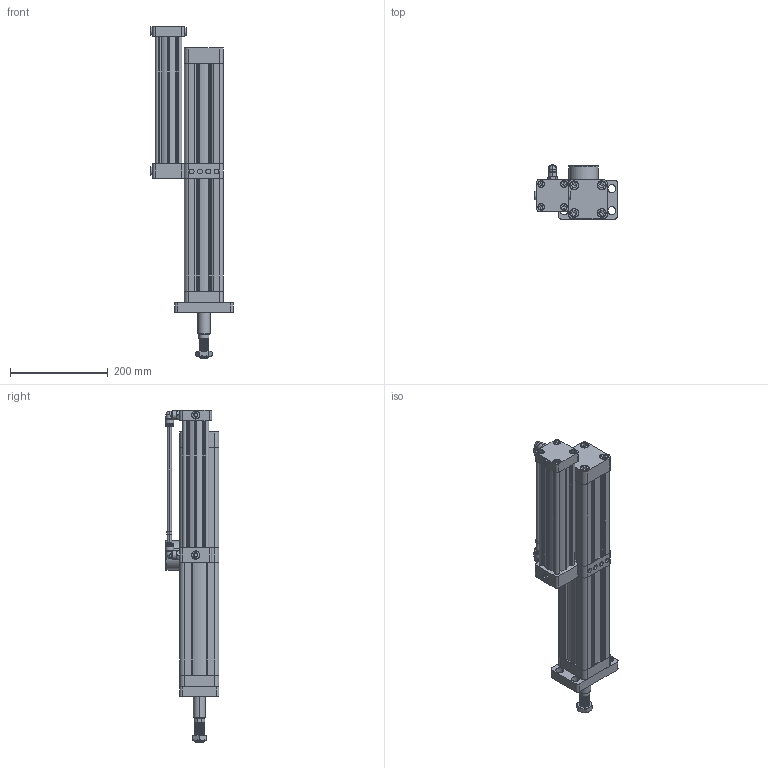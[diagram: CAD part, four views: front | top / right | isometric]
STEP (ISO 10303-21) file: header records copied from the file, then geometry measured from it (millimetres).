
FILE_DESCRIPTION(('CATIA V5 STEP Exchange'),'2;1');
FILE_NAME('D:\7-PHP\PHP CYLINDER\cad\master file\63.50.10\Stroke\PHP63.150.10\ass\PHP-63-150-10.stp','2020-09-22T07:50:02+00:00',('none'),('none'),'CATIA Version 5-6 Release 2016','CATIA V5 STEP AP203','none');
FILE_SCHEMA(('CONFIG_CONTROL_DESIGN'));
Products named in the file (2): PHP 63-150-10; prssure
Assembly tree (39 placements, depth 3):
  PHP 63-150-10
    #57
    #689
    #996
    #4193
    #4840
    #8037
    #8613
    #9204
    #12710
    prssure
      #13507
      #13819
      #13923
      #132929
      #249919
      #249942
      #250304
      #250408
      #250583
      #250953
      #251846
    #252752
    #252856
    #253734
    #254612
    #255490
    #256368
    #263649
    #264563
    #265477
    #266391
    #267305
    #267849  x3
    #268366  x2
    #268574  x2
Bounding box: 169 x 110.25 x 680 mm (x, y, z)
Volume: 2006897 mm3; surface area: 707300.6 mm2
Topology: 85 solids, 85 shells, 8422 faces, 24439 edges, 16252 vertices
Faces by surface type: plane 7498, cylinder 671, cone 110, bspline 77, torus 58, sphere 8
Entity records: 271220 total; most frequent: CARTESIAN_POINT 53802, ORIENTED_EDGE 48282, DIRECTION 39389, EDGE_CURVE 24141, VECTOR 22314, LINE 22314, VERTEX_POINT 16062, AXIS2_PLACEMENT_3D 9222
